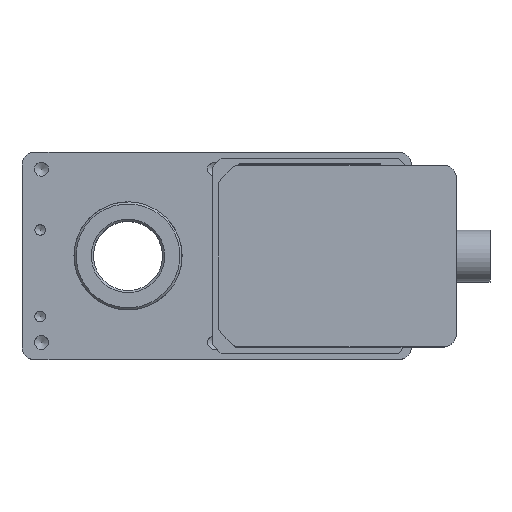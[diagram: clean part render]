
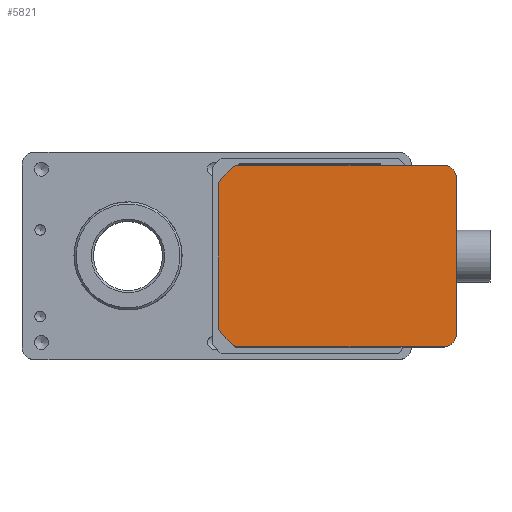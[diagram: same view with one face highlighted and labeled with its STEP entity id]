
A CAD part, top view. The second image highlights one B-rep face of the part: STEP entity #5821.
In plain terms, the highlighted planar face has unit normal (0, 0, 1) as drawn and (0, 0, -1) by its records, which use the part's own axes.
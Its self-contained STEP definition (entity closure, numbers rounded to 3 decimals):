
#5436=CARTESIAN_POINT('',(39.3,-12.7,-21.));
#5437=VERTEX_POINT('',#5436);
#5438=CARTESIAN_POINT('',(42.3,-9.7,-21.));
#5439=VERTEX_POINT('',#5438);
#5440=CARTESIAN_POINT('',(39.3,-9.7,-21.));
#5441=DIRECTION('',(0.0,0.0,1.0));
#5442=DIRECTION('',(0.707,-0.707,0.0));
#5443=AXIS2_PLACEMENT_3D('',#5440,#5441,#5442);
#5444=CIRCLE('',#5443,3.);
#5445=EDGE_CURVE('',#5437,#5439,#5444,.T.);
#5470=CARTESIAN_POINT('',(3.3,-12.7,-21.));
#5471=VERTEX_POINT('',#5470);
#5478=CARTESIAN_POINT('',(3.3,-12.7,-21.));
#5479=DIRECTION('',(1.0,0.0,0.0));
#5480=VECTOR('',#5479,36.);
#5481=LINE('',#5478,#5480);
#5482=EDGE_CURVE('',#5471,#5437,#5481,.T.);
#5506=CARTESIAN_POINT('',(0.3,-9.7,-21.));
#5507=VERTEX_POINT('',#5506);
#5508=CARTESIAN_POINT('',(3.3,-9.7,-21.));
#5509=DIRECTION('',(0.0,0.0,1.0));
#5510=DIRECTION('',(-0.707,-0.707,0.0));
#5511=AXIS2_PLACEMENT_3D('',#5508,#5509,#5510);
#5512=CIRCLE('',#5511,3.0);
#5513=EDGE_CURVE('',#5507,#5471,#5512,.T.);
#5551=CARTESIAN_POINT('',(0.3,38.271,-21.));
#5552=VERTEX_POINT('',#5551);
#5559=CARTESIAN_POINT('',(0.3,38.271,-21.));
#5560=DIRECTION('',(0.0,-1.0,0.0));
#5561=VECTOR('',#5560,47.971);
#5562=LINE('',#5559,#5561);
#5563=EDGE_CURVE('',#5552,#5507,#5562,.T.);
#5719=CARTESIAN_POINT('',(42.3,38.271,-21.));
#5720=VERTEX_POINT('',#5719);
#5721=CARTESIAN_POINT('',(42.3,-9.7,-21.));
#5722=DIRECTION('',(0.0,1.0,0.0));
#5723=VECTOR('',#5722,47.971);
#5724=LINE('',#5721,#5723);
#5725=EDGE_CURVE('',#5439,#5720,#5724,.T.);
#5746=CARTESIAN_POINT('',(38.271,42.3,-21.));
#5747=VERTEX_POINT('',#5746);
#5748=CARTESIAN_POINT('',(21.3,21.3,-21.));
#5749=DIRECTION('',(0.0,0.0,1.0));
#5750=DIRECTION('',(-0.629,-0.778,0.0));
#5751=AXIS2_PLACEMENT_3D('',#5748,#5749,#5750);
#5752=CIRCLE('',#5751,27.0);
#5753=EDGE_CURVE('',#5720,#5747,#5752,.T.);
#5771=CARTESIAN_POINT('',(4.329,42.3,-21.));
#5772=VERTEX_POINT('',#5771);
#5773=CARTESIAN_POINT('',(38.271,42.3,-21.));
#5774=DIRECTION('',(-1.0,0.0,0.0));
#5775=VECTOR('',#5774,33.941);
#5776=LINE('',#5773,#5775);
#5777=EDGE_CURVE('',#5747,#5772,#5776,.T.);
#5795=CARTESIAN_POINT('',(21.3,21.3,-21.));
#5796=DIRECTION('',(0.0,0.0,1.0));
#5797=DIRECTION('',(0.778,-0.629,0.0));
#5798=AXIS2_PLACEMENT_3D('',#5795,#5796,#5797);
#5799=CIRCLE('',#5798,27.0);
#5800=EDGE_CURVE('',#5772,#5552,#5799,.T.);
#5806=CARTESIAN_POINT('',(21.3,14.085,-21.));
#5807=DIRECTION('',(0.0,0.0,-1.0));
#5808=DIRECTION('',(-1.0,0.0,0.0));
#5809=AXIS2_PLACEMENT_3D('',#5806,#5807,#5808);
#5810=PLANE('',#5809);
#5811=ORIENTED_EDGE('',*,*,#5445,.F.);
#5812=ORIENTED_EDGE('',*,*,#5482,.F.);
#5813=ORIENTED_EDGE('',*,*,#5513,.F.);
#5814=ORIENTED_EDGE('',*,*,#5563,.F.);
#5815=ORIENTED_EDGE('',*,*,#5800,.F.);
#5816=ORIENTED_EDGE('',*,*,#5777,.F.);
#5817=ORIENTED_EDGE('',*,*,#5753,.F.);
#5818=ORIENTED_EDGE('',*,*,#5725,.F.);
#5819=EDGE_LOOP('',(#5811,#5812,#5813,#5814,#5815,#5816,#5817,#5818));
#5820=FACE_OUTER_BOUND('',#5819,.T.);
#5821=ADVANCED_FACE('',(#5820),#5810,.T.);
